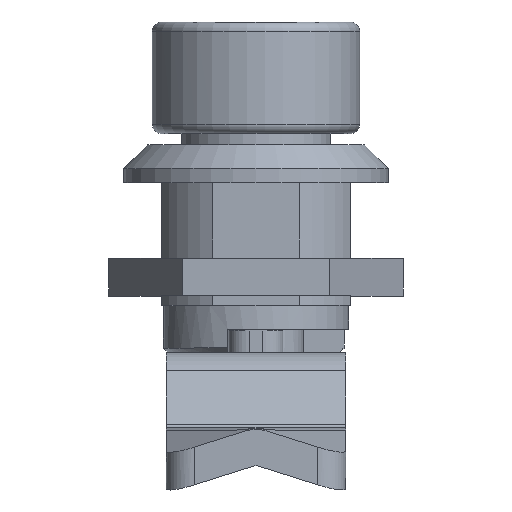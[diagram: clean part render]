
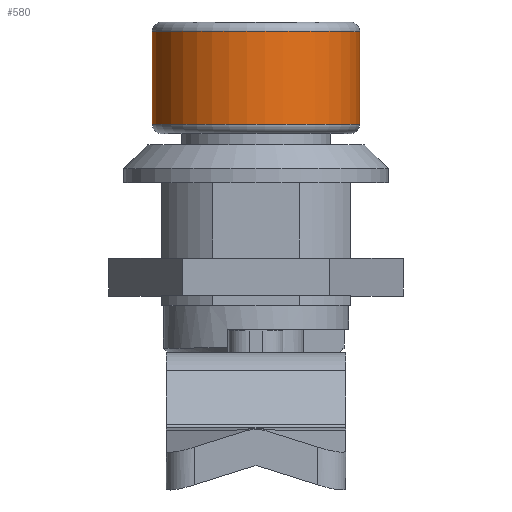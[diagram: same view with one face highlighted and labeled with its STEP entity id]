
A CAD part, top view. The second image highlights one B-rep face of the part: STEP entity #580.
In plain terms, the highlighted cylindrical face has radius 11 mm (diameter 22 mm), a partial arc.
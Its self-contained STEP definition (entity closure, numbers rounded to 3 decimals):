
#12 = CARTESIAN_POINT ( 'NONE',  ( -37.5, 9.128, -6.138 ) ) ;
#236 = CARTESIAN_POINT ( 'NONE',  ( -37.5, 9.128, -6.138 ) ) ;
#285 = EDGE_CURVE ( 'NONE', #4615, #441, #4810, .T. ) ;
#327 = CARTESIAN_POINT ( 'NONE',  ( -17.9, 0., 0. ) ) ;
#381 = VERTEX_POINT ( 'NONE', #4758 ) ;
#428 = CARTESIAN_POINT ( 'NONE',  ( -27.7, 9.071, -6.222 ) ) ;
#434 = DIRECTION ( 'NONE',  ( -1., 0., 0. ) ) ;
#441 = VERTEX_POINT ( 'NONE', #12 ) ;
#517 = DIRECTION ( 'NONE',  ( 0., 1., 0. ) ) ;
#524 = ORIENTED_EDGE ( 'NONE', *, *, #2172, .T. ) ;
#558 = CARTESIAN_POINT ( 'NONE',  ( -34.233, 9.109, -6.166 ) ) ;
#580 = ADVANCED_FACE ( 'NONE', ( #3128 ), #1967, .T. ) ;
#725 = CARTESIAN_POINT ( 'NONE',  ( -27.7, -9.071, -6.222 ) ) ;
#894 = ORIENTED_EDGE ( 'NONE', *, *, #1449, .T. ) ;
#1033 = DIRECTION ( 'NONE',  ( 0., -1., 0. ) ) ;
#1222 = AXIS2_PLACEMENT_3D ( 'NONE', #4912, #434, #517 ) ;
#1439 = CARTESIAN_POINT ( 'NONE',  ( -27.7, 9.071, -6.222 ) ) ;
#1449 = EDGE_CURVE ( 'NONE', #381, #3264, #1654, .T. ) ;
#1654 = B_SPLINE_CURVE_WITH_KNOTS ( 'NONE', 3,
 ( #2733, #2278, #4279, #4669 ),
 .UNSPECIFIED., .F., .F.,
 ( 4, 4 ),
 ( 0.001, 0.011 ),
 .UNSPECIFIED. ) ;
#1967 = CYLINDRICAL_SURFACE ( 'NONE', #2730, 11. ) ;
#2172 = EDGE_CURVE ( 'NONE', #3264, #4615, #2736, .T. ) ;
#2278 = CARTESIAN_POINT ( 'NONE',  ( -34.233, -9.109, -6.166 ) ) ;
#2283 = DIRECTION ( 'NONE',  ( 1., 0., 0. ) ) ;
#2320 = ORIENTED_EDGE ( 'NONE', *, *, #285, .T. ) ;
#2730 = AXIS2_PLACEMENT_3D ( 'NONE', #327, #2283, #3494 ) ;
#2733 = CARTESIAN_POINT ( 'NONE',  ( -37.5, -9.128, -6.138 ) ) ;
#2736 = CIRCLE ( 'NONE', #1222, 11. ) ;
#2872 = EDGE_CURVE ( 'NONE', #441, #381, #3741, .T. ) ;
#3128 = FACE_OUTER_BOUND ( 'NONE', #5170, .T. ) ;
#3264 = VERTEX_POINT ( 'NONE', #725 ) ;
#3494 = DIRECTION ( 'NONE',  ( 0., 1., 0. ) ) ;
#3503 = ORIENTED_EDGE ( 'NONE', *, *, #2872, .T. ) ;
#3741 = CIRCLE ( 'NONE', #4080, 11. ) ;
#4080 = AXIS2_PLACEMENT_3D ( 'NONE', #4645, #5025, #1033 ) ;
#4279 = CARTESIAN_POINT ( 'NONE',  ( -30.967, -9.09, -6.194 ) ) ;
#4615 = VERTEX_POINT ( 'NONE', #428 ) ;
#4645 = CARTESIAN_POINT ( 'NONE',  ( -37.5, 0., 0. ) ) ;
#4669 = CARTESIAN_POINT ( 'NONE',  ( -27.7, -9.071, -6.222 ) ) ;
#4758 = CARTESIAN_POINT ( 'NONE',  ( -37.5, -9.128, -6.138 ) ) ;
#4810 = B_SPLINE_CURVE_WITH_KNOTS ( 'NONE', 3,
 ( #1439, #5030, #558, #236 ),
 .UNSPECIFIED., .F., .F.,
 ( 4, 4 ),
 ( 0.001, 0.011 ),
 .UNSPECIFIED. ) ;
#4912 = CARTESIAN_POINT ( 'NONE',  ( -27.7, 0., 0. ) ) ;
#5025 = DIRECTION ( 'NONE',  ( 1., 0., 0. ) ) ;
#5030 = CARTESIAN_POINT ( 'NONE',  ( -30.967, 9.09, -6.194 ) ) ;
#5170 = EDGE_LOOP ( 'NONE', ( #894, #524, #2320, #3503 ) ) ;
